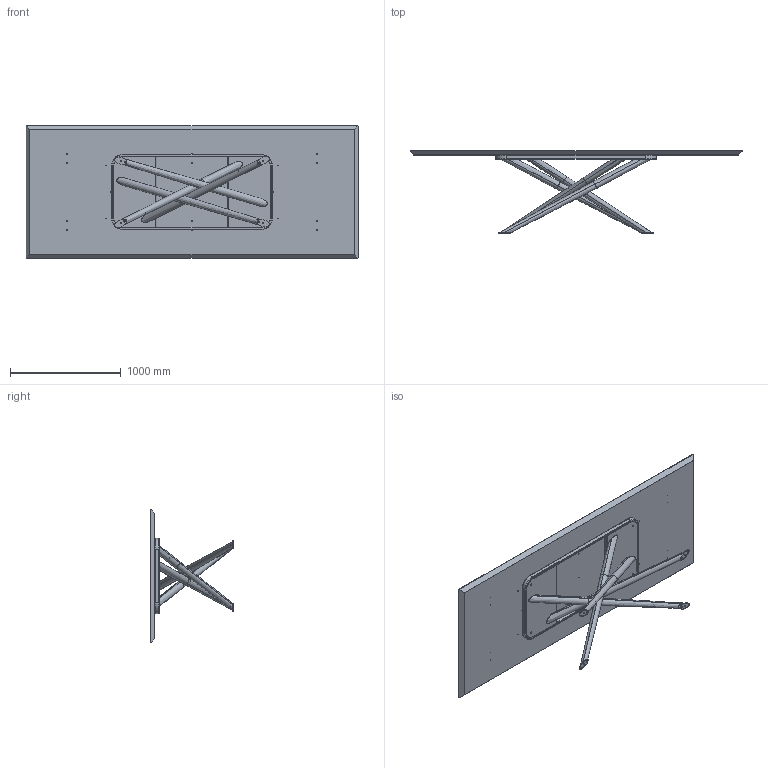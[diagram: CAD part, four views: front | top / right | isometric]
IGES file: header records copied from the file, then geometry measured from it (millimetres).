
Start section: SolidWorks IGES file using analytic representation for surfaces
Global section: file name: Y:\eforma\TECNICO\SOLIDWORKS\E-FORMA\1-TAVOLI\BALY\02 parts\BA23W.IGS; native system: SolidWorks 2022; preprocessor: SolidWorks 2022; author: eforma.tech; date: 240808.080019; units: millimetre
Bounding box: 3000 x 747 x 1200 mm (x, y, z)
Volume: 137495745.9 mm3; surface area: 11583230.9 mm2
Topology: 27 solids, 27 shells, 696 faces, 1470 edges, 803 vertices
Faces by surface type: revolution 384, plane 294, bspline 18
